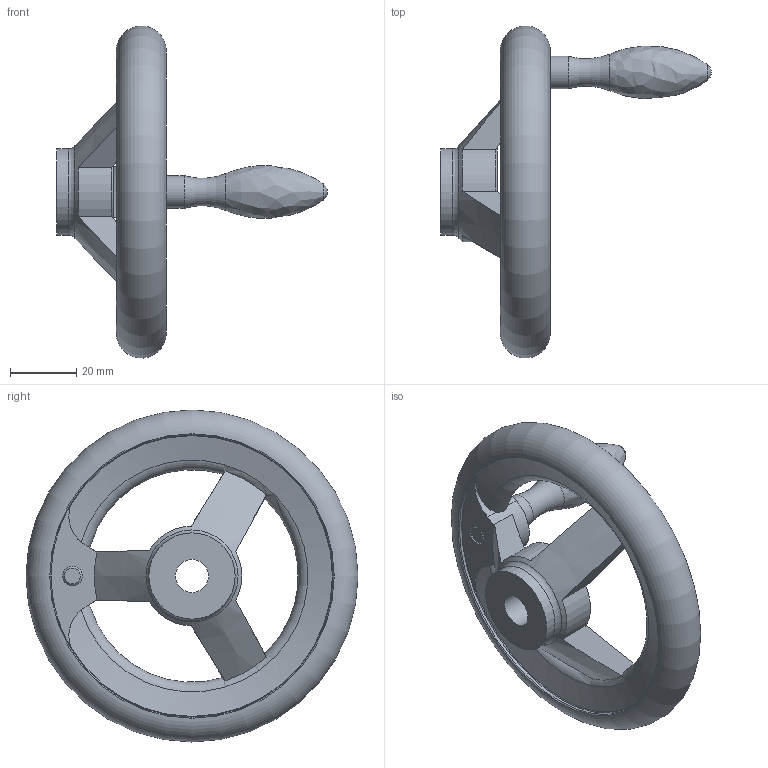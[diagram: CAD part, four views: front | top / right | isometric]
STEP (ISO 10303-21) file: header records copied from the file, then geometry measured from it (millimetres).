
FILE_DESCRIPTION( ( 'STEP AP203' ), '1' );
FILE_NAME( 'C:/Temp/Ganter_Step_05_03_2020/data/1_3/din_950/din_950_b/din_950_b_f/Handwheel DIN 950-GG-100-B10-F.stp', '2020-03-05T10:30:03', ( 'License CC BY-ND 4.0' ), ( 'CADENAS' ), ' ', 'PARTsolutions', ' ' );
FILE_SCHEMA( ( 'CONFIG_CONTROL_DESIGN' ) );
Length unit declared in the file: millimetre
Products named in the file (1): _Handwheel DIN 950-GG-100-B10-F
Bounding box: 81.5 x 99.96 x 99.96 mm (x, y, z)
Volume: 70265.1 mm3; surface area: 21230.9 mm2
Topology: 1 solids, 1 shells, 44 faces, 122 edges, 77 vertices
Faces by surface type: cylinder 15, torus 11, plane 11, cone 5, bspline 1, sphere 1
Full cylindrical faces by diameter (mm): 6 x1, 9.8 x1, 10 x1, 26 x2, 85 x2
Entity records: 1625 total; most frequent: CARTESIAN_POINT 594, DIRECTION 194, ORIENTED_EDGE 192, EDGE_CURVE 96, AXIS2_PLACEMENT_3D 91, VERTEX_POINT 73, EDGE_LOOP 69, FACE_OUTER_BOUND 60
